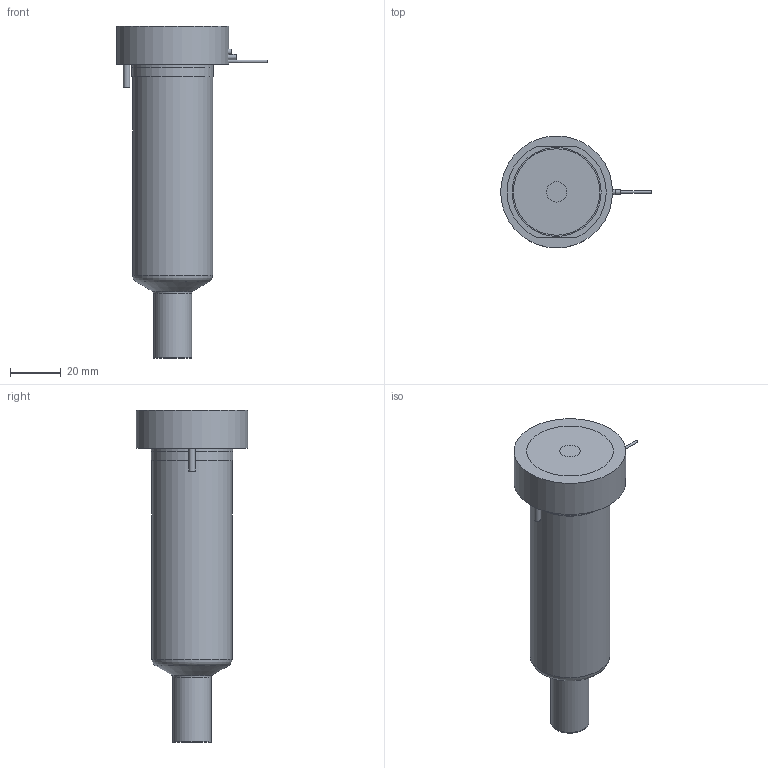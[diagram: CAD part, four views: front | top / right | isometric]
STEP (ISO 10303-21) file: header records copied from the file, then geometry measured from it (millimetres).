
FILE_DESCRIPTION(/* description */ (''),/* implementation_level */ '2;1');
FILE_NAME(/* name */ 'MXYCN19095P7F_200C_a',/* time_stamp */ '2016-02-26T15:20:27+13:00',/* author */ (''),/* organization */ (''),/* preprocessor_version */ 'ST-DEVELOPER v9',/* originating_system */ 'UGS - NX 4.0',/* authorisation */ '');
FILE_SCHEMA (('CONFIG_CONTROL_DESIGN'));
Length unit declared in the file: millimetre
Products named in the file (1): matt70754gyx
Bounding box: 59.25 x 44 x 130.52 mm (x, y, z)
Volume: 159677.7 mm3; surface area: 28516.4 mm2
Topology: 2 solids, 2 shells, 68 faces, 144 edges, 94 vertices
Faces by surface type: plane 29, cylinder 25, torus 7, cone 5, bspline 1, sphere 1
Full cylindrical faces by diameter (mm): 1 x2, 2 x2, 2.2 x1, 2.5 x1, 7 x1, 8 x1, 14.61 x1, 14.995 x2, 18.3 x1, 25.4 x1, 31.5 x1, 32 x2, 44 x1
Entity records: 2005 total; most frequent: CARTESIAN_POINT 597, DIRECTION 290, ORIENTED_EDGE 212, AXIS2_PLACEMENT_3D 131, EDGE_LOOP 112, EDGE_CURVE 106, VERTEX_POINT 84, ADVANCED_FACE 68
